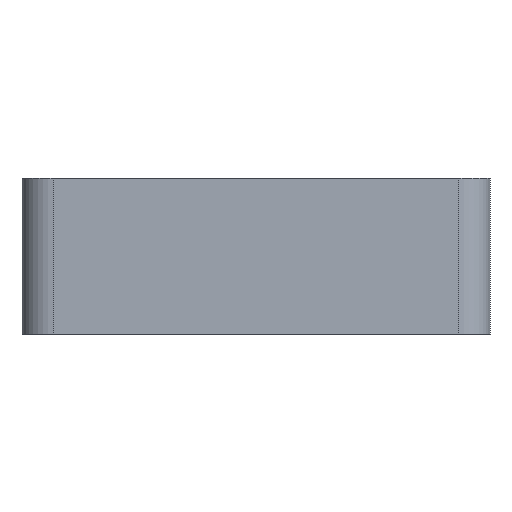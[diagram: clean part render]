
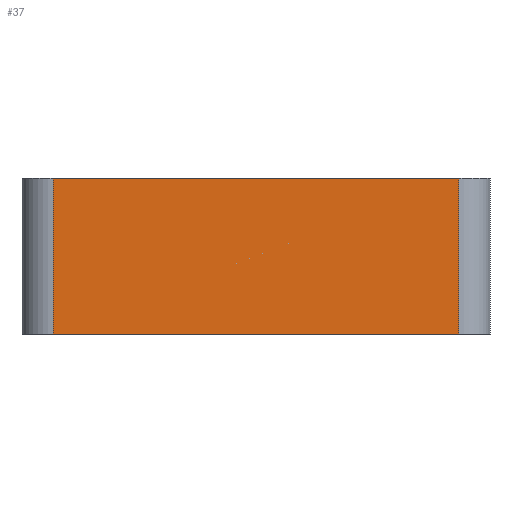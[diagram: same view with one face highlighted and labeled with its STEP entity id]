
A CAD part, left-side view. The second image highlights one B-rep face of the part: STEP entity #37.
In plain terms, the highlighted planar face has unit normal (-1, 0, 0).
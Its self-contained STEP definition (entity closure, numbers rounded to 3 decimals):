
#37 = ADVANCED_FACE ( 'NONE', ( #2674 ), #1164, .F. ) ;
#114 = VERTEX_POINT ( 'NONE', #1378 ) ;
#115 = VERTEX_POINT ( 'NONE', #1379 ) ;
#116 = VERTEX_POINT ( 'NONE', #1380 ) ;
#117 = VERTEX_POINT ( 'NONE', #1381 ) ;
#369 = CARTESIAN_POINT ( 'NONE',  ( -15., -13., -10. ) ) ;
#380 = DIRECTION ( 'NONE',  ( 0., 0., 1. ) ) ;
#389 = CARTESIAN_POINT ( 'NONE',  ( -15., -13., -10. ) ) ;
#391 = CARTESIAN_POINT ( 'NONE',  ( -15., -13., 0. ) ) ;
#392 = DIRECTION ( 'NONE',  ( 0., 1., 0. ) ) ;
#399 = CARTESIAN_POINT ( 'NONE',  ( -15., 13., -10. ) ) ;
#400 = DIRECTION ( 'NONE',  ( 0., 0., 1. ) ) ;
#402 = DIRECTION ( 'NONE',  ( 0., 1., 0. ) ) ;
#991 = EDGE_CURVE ( 'NONE', #115, #114, #3185, .T. ) ;
#997 = EDGE_CURVE ( 'NONE', #115, #117, #3191, .T. ) ;
#1001 = EDGE_CURVE ( 'NONE', #117, #116, #3206, .T. ) ;
#1002 = EDGE_CURVE ( 'NONE', #114, #116, #3195, .T. ) ;
#1163 = CARTESIAN_POINT ( 'NONE',  ( -15., -13., -10. ) ) ;
#1164 = PLANE ( 'NONE',  #1916 ) ;
#1166 = DIRECTION ( 'NONE',  ( 1., 0., 0. ) ) ;
#1167 = DIRECTION ( 'NONE',  ( 0., 0., -1. ) ) ;
#1378 = CARTESIAN_POINT ( 'NONE',  ( -15., -13., 0. ) ) ;
#1379 = CARTESIAN_POINT ( 'NONE',  ( -15., -13., -10. ) ) ;
#1380 = CARTESIAN_POINT ( 'NONE',  ( -15., 13., 0. ) ) ;
#1381 = CARTESIAN_POINT ( 'NONE',  ( -15., 13., -10. ) ) ;
#1916 = AXIS2_PLACEMENT_3D ( 'NONE', #1163, #1166, #1167 ) ;
#2288 = ORIENTED_EDGE ( 'NONE', *, *, #1002, .T. ) ;
#2674 = FACE_OUTER_BOUND ( 'NONE', #3581, .T. ) ;
#3185 = LINE ( 'NONE', #369, #3187 ) ;
#3187 = VECTOR ( 'NONE', #380, 1000. ) ;
#3191 = LINE ( 'NONE', #389, #3198 ) ;
#3195 = LINE ( 'NONE', #391, #3208 ) ;
#3198 = VECTOR ( 'NONE', #392, 1000. ) ;
#3206 = LINE ( 'NONE', #399, #3207 ) ;
#3207 = VECTOR ( 'NONE', #400, 1000. ) ;
#3208 = VECTOR ( 'NONE', #402, 1000. ) ;
#3581 = EDGE_LOOP ( 'NONE', ( #2288, #3643, #3717, #3630 ) ) ;
#3630 = ORIENTED_EDGE ( 'NONE', *, *, #991, .T. ) ;
#3643 = ORIENTED_EDGE ( 'NONE', *, *, #1001, .F. ) ;
#3717 = ORIENTED_EDGE ( 'NONE', *, *, #997, .F. ) ;
